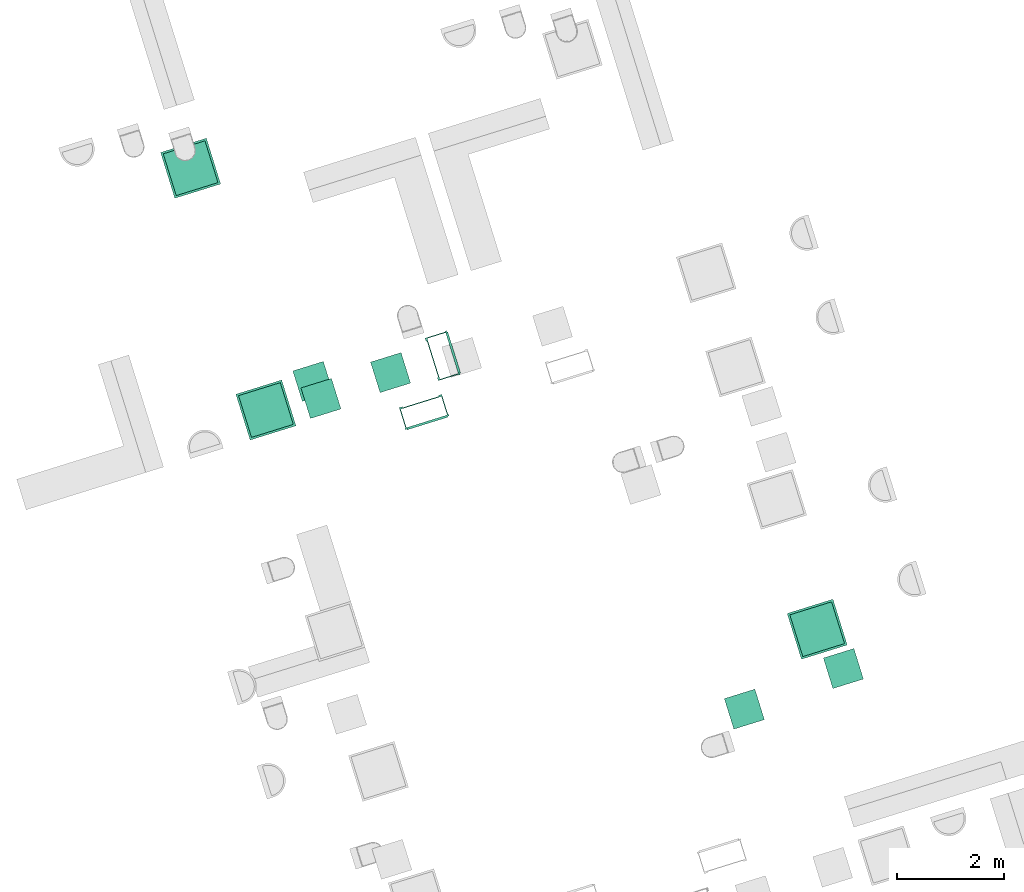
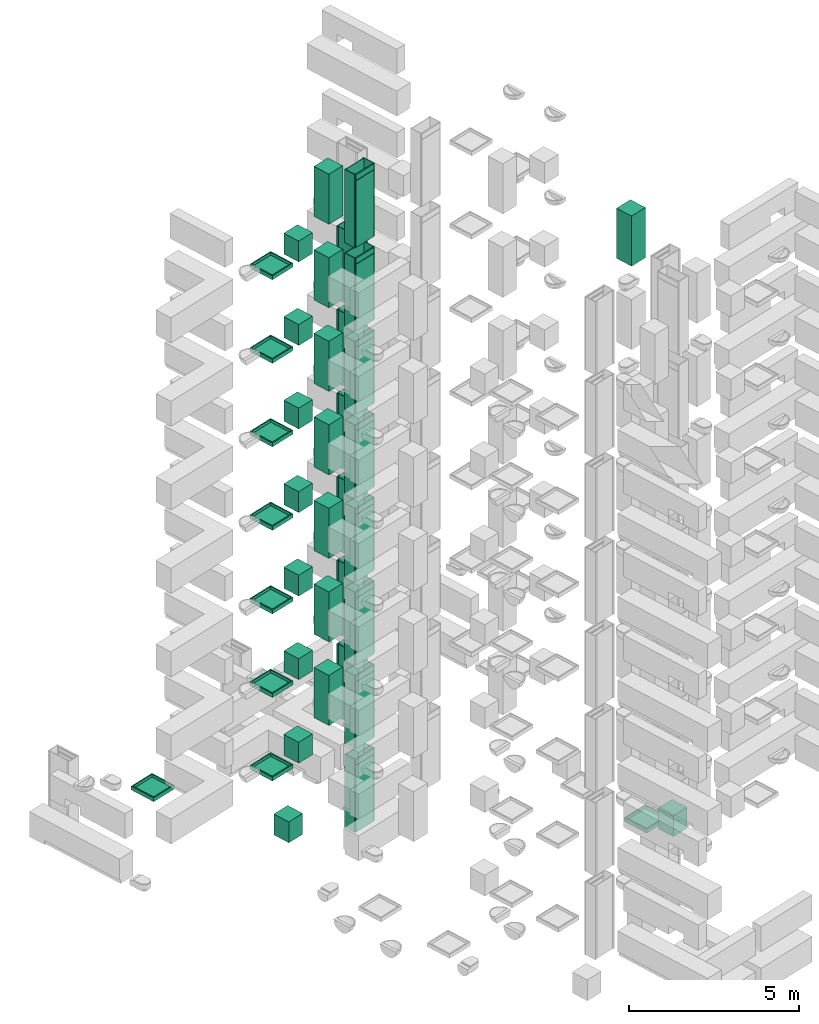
# Not in any storey, part 3 of 17: 14 distribution chamber elements, 9 electric appliances, 9 sanitary terminals, 8 boilers.
"""IFC4 model written with IfcOpenShell, lengths in metres."""

from ifc_helpers import new_model, entity, si_unit, converted_unit, direction, frame, origin, place, context, subcontext, project, indexed_curve, outline, extrude, polygons, source, transform, mapped, material, type_object, type_shapes, element, save


model = new_model("IFC4")

# Units and contexts
model_context = context("Model", 3, precision=1e-05, world=origin(), true_north=direction((6.12323399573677e-17, 1.0)))
body_context = subcontext(model_context, "Body", "Model", "MODEL_VIEW")
ifc_project = project(units=[si_unit("LENGTHUNIT", "METRE"), si_unit("AREAUNIT", "SQUARE_METRE"), converted_unit("PLANEANGLEUNIT", "DEGREE", entity("IfcPlaneAngleMeasure", 0.0174532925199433), si_unit("PLANEANGLEUNIT", "RADIAN"), dimensions=[0, 0, 0, 0, 0, 0, 0]), si_unit("VOLUMEUNIT", "CUBIC_METRE")], contexts=[model_context])

# Distribution chamber elements
ifc_material = material(Name="<Unnamed>")
distribution_chamber_element_type_1 = type_object("IfcDistributionChamberElementType", Name="NLRS_61_GM_UN_Jonka meterkast_gen:Jonka_kast", PredefinedType="METERCHAMBER", material=ifc_material)
shared_shape_1 = source(origin(), body_context, "Body", "SweptSolid", [
    extrude(outline(indexed_curve([(-0.0230000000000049, -0.00925000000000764), (-0.00900000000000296, -0.00925000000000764), (-0.00900000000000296, 0.000749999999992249), (0.00899999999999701, 0.000749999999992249), (0.00899999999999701, -0.00925000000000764), (0.023000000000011, -0.00925000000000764), (0.023000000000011, 0.0177500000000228), (-0.0230000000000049, 0.0177500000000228), (-0.0230000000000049, -0.00925000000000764)], self_intersect=False)), frame((-0.408999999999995, 0.409249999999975, 0.0)), (0.0, 0.0, 1.0), 2.63),
    extrude(outline(indexed_curve([(-0.0230000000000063, -0.00925000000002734), (-0.00900000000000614, -0.00925000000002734), (-0.00900000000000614, 0.00074999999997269), (0.00900000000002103, 0.00074999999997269), (0.00900000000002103, -0.00925000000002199), (0.0229999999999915, -0.00925000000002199), (0.0229999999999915, 0.0177500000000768), (-0.0230000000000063, 0.0177500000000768), (-0.0230000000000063, -0.00925000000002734)], self_intersect=False)), frame((0.409000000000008, 0.409249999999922, 0.0)), (0.0, 0.0, 1.0), 2.63),
    extrude(outline(indexed_curve([(-0.00899999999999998, -0.204999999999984), (0.00899999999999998, -0.204999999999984), (0.00899999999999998, 0.204999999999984), (-0.00899999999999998, 0.204999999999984), (-0.00899999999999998, -0.204999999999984)], self_intersect=False)), frame((-0.408999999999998, 0.204999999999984, 0.0)), (0.0, 0.0, 1.0), 2.63),
    extrude(outline(indexed_curve([(-0.00900000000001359, -0.204999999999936), (0.00900000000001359, -0.204999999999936), (0.00900000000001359, 0.204999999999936), (-0.00900000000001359, 0.204999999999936), (-0.00900000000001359, -0.204999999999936)], self_intersect=False)), frame((0.409000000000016, 0.204999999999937, 0.0)), (0.0, 0.0, 1.0), 2.63),
    extrude(outline(indexed_curve([(-0.00799999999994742, -0.399999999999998), (0.00799999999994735, -0.399999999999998), (0.00799999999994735, 0.399999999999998), (-0.00799999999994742, 0.399999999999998), (-0.00799999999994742, -0.399999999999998)], self_intersect=False)), frame((0.0, 0.434999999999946, 0.00999999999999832), z_axis=(0.0, 0.0, 1.0), x_axis=(0.0, 1.0, 0.0)), (0.0, 0.0, 1.0), 2.39),
    extrude(outline(indexed_curve([(-0.0090000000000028, -0.400000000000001), (0.00899999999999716, -0.400000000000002), (0.0090000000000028, 0.400000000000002), (-0.00899999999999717, 0.400000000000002), (-0.0090000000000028, -0.400000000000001)], self_intersect=False)), frame((0.0, 0.0280000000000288, 0.0), z_axis=(0.0, 0.0, 1.0), x_axis=(0.0, 1.0, 0.0)), (0.0, 0.0, 1.0), 2.63),
    extrude(outline(indexed_curve([(-0.0095, -0.023), (0.0095, -0.023), (0.0095, 0.023), (-0.0095, 0.023), (-0.0095, -0.023)], self_intersect=False)), frame((-0.376999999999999, 0.0095, 0.0), z_axis=(0.0, 0.0, 1.0), x_axis=(0.0, 1.0, 0.0)), (0.0, 0.0, 1.0), 2.63),
    extrude(outline(indexed_curve([(-0.0095, -0.022999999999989), (0.0095, -0.022999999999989), (0.0095, 0.022999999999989), (-0.0095, 0.022999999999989), (-0.0095, -0.022999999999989)], self_intersect=False)), frame((0.377000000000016, 0.00950000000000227, 0.0), z_axis=(0.0, 0.0, 1.0), x_axis=(0.0, 1.0, 0.0)), (0.0, 0.0, 1.0), 2.63),
    extrude(outline(indexed_curve([(-0.00799999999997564, -0.399999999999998), (0.00799999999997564, -0.399999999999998), (0.00799999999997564, 0.399999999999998), (-0.00799999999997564, 0.399999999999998), (-0.00799999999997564, -0.399999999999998)], self_intersect=False)), frame((0.0, 0.434999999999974, 2.41800000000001), z_axis=(0.0, 0.0, 1.0), x_axis=(0.0, 1.0, 0.0)), (0.0, 0.0, 1.0), 0.197000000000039),
    extrude(outline(indexed_curve([(-0.0177500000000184, -0.0230000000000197), (0.00925000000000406, -0.0230000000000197), (0.00925000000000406, -0.00899999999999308), (-0.00074999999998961, -0.00899999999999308), (-0.00074999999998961, 0.00900000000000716), (0.00925000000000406, 0.00900000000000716), (0.00925000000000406, 0.0230000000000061), (-0.0177500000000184, 0.0230000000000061), (-0.0177500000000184, -0.0230000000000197)], self_intersect=False)), frame((-0.386, 0.409249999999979, 2.59200000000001), z_axis=(1.0, 0.0, 0.0), x_axis=(0.0, -1.0, 0.0)), (0.0, 0.0, 1.0), 0.772),
    extrude(outline(indexed_curve([(-0.0177500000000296, -0.0229999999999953), (0.00925000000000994, -0.0229999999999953), (0.00925000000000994, -0.00899999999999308), (-0.000749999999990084, -0.00899999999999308), (-0.000749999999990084, 0.00900000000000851), (0.00925000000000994, 0.00900000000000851), (0.00925000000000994, 0.0229999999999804), (-0.0177500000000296, 0.0229999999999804), (-0.0177500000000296, -0.0229999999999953)], self_intersect=False)), frame((-0.386, 0.40924999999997, 2.40900000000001), z_axis=(1.0, 0.0, 0.0), x_axis=(0.0, -1.0, 0.0)), (0.0, 0.0, 1.0), 0.772),
    extrude(outline(indexed_curve([(-0.0177500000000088, -0.0230000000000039), (0.00925000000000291, -0.0230000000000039), (0.00925000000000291, -0.00899999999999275), (-0.000749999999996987, -0.00899999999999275), (-0.000749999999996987, 0.00899999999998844), (0.00925000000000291, 0.00899999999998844), (0.00925000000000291, 0.0230000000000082), (-0.0177500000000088, 0.0230000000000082), (-0.0177500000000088, -0.0230000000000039)], self_intersect=False)), frame((-0.386, 0.409249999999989, 0.0229999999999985), z_axis=(1.0, 0.0, 0.0), x_axis=(0.0, -1.0, 0.0)), (0.0, 0.0, 1.0), 0.772),
])
type_shapes(distribution_chamber_element_type_1, [shared_shape_1])
placement_1 = place(None, frame((13.1347999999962, 11.9886000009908, 0.0), z_axis=(0.0, 0.0, 1.0), x_axis=(0.954770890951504, 0.297342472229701, 0.0)))
placement_2 = place(placement_1, origin())
placement_3 = place(placement_2, frame((0.0, 0.0, 6.9)))
placement_4 = place(placement_3, origin())
distribution_chamber_element_1_placement = place(placement_4, frame((67.6749999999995, 22.757, 0.0), z_axis=(0.0, 0.0, 1.0), x_axis=(0.0, -1.0, 0.0)))
element("IfcDistributionChamberElement", 1, at=distribution_chamber_element_1_placement, type_object=distribution_chamber_element_type_1, material=ifc_material, Name="NLRS_61_GM_UN_Jonka meterkast_gen:Jonka_kast", ObjectType="NLRS_61_GM_UN_Jonka meterkast_gen:Jonka_kast", PredefinedType="METERCHAMBER", context=body_context, shape_type="MappedRepresentation", body=[
    mapped(shared_shape_1, transform((0.0, 0.0, 0.0), scale=1.0)),
])
placement_5 = place(placement_2, frame((0.0, 0.0, 9.9)))
placement_6 = place(placement_5, origin())
distribution_chamber_element_2_placement = place(placement_6, frame((67.6749999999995, 22.757, 0.0), z_axis=(0.0, 0.0, 1.0), x_axis=(0.0, -1.0, 0.0)))
element("IfcDistributionChamberElement", 2, at=distribution_chamber_element_2_placement, type_object=distribution_chamber_element_type_1, material=ifc_material, Name="NLRS_61_GM_UN_Jonka meterkast_gen:Jonka_kast", ObjectType="NLRS_61_GM_UN_Jonka meterkast_gen:Jonka_kast", PredefinedType="METERCHAMBER", context=body_context, shape_type="MappedRepresentation", body=[
    mapped(shared_shape_1, transform((0.0, 0.0, 0.0), scale=1.0)),
])
placement_7 = place(placement_2, frame((0.0, 0.0, 12.9)))
placement_8 = place(placement_7, origin())
distribution_chamber_element_3_placement = place(placement_8, frame((67.6749999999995, 22.757, 0.0), z_axis=(0.0, 0.0, 1.0), x_axis=(0.0, -1.0, 0.0)))
element("IfcDistributionChamberElement", 3, at=distribution_chamber_element_3_placement, type_object=distribution_chamber_element_type_1, material=ifc_material, Name="NLRS_61_GM_UN_Jonka meterkast_gen:Jonka_kast", ObjectType="NLRS_61_GM_UN_Jonka meterkast_gen:Jonka_kast", PredefinedType="METERCHAMBER", context=body_context, shape_type="MappedRepresentation", body=[
    mapped(shared_shape_1, transform((0.0, 0.0, 0.0), scale=1.0)),
])
placement_9 = place(placement_2, frame((0.0, 0.0, 15.9)))
placement_10 = place(placement_9, origin())
distribution_chamber_element_4_placement = place(placement_10, frame((67.6749999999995, 22.757, 0.0), z_axis=(0.0, 0.0, 1.0), x_axis=(0.0, -1.0, 0.0)))
element("IfcDistributionChamberElement", 4, at=distribution_chamber_element_4_placement, type_object=distribution_chamber_element_type_1, material=ifc_material, Name="NLRS_61_GM_UN_Jonka meterkast_gen:Jonka_kast", ObjectType="NLRS_61_GM_UN_Jonka meterkast_gen:Jonka_kast", PredefinedType="METERCHAMBER", context=body_context, shape_type="MappedRepresentation", body=[
    mapped(shared_shape_1, transform((0.0, 0.0, 0.0), scale=1.0)),
])
placement_11 = place(placement_2, frame((0.0, 0.0, 18.9)))
placement_12 = place(placement_11, origin())
distribution_chamber_element_5_placement = place(placement_12, frame((67.6749999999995, 22.757, 0.0), z_axis=(0.0, 0.0, 1.0), x_axis=(0.0, -1.0, 0.0)))
element("IfcDistributionChamberElement", 5, at=distribution_chamber_element_5_placement, type_object=distribution_chamber_element_type_1, material=ifc_material, Name="NLRS_61_GM_UN_Jonka meterkast_gen:Jonka_kast", ObjectType="NLRS_61_GM_UN_Jonka meterkast_gen:Jonka_kast", PredefinedType="METERCHAMBER", context=body_context, shape_type="MappedRepresentation", body=[
    mapped(shared_shape_1, transform((0.0, 0.0, 0.0), scale=1.0)),
])
placement_13 = place(placement_2, frame((0.0, 0.0, 21.9)))
placement_14 = place(placement_13, origin())
distribution_chamber_element_6_placement = place(placement_14, frame((67.6749999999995, 22.757, 0.0), z_axis=(0.0, 0.0, 1.0), x_axis=(0.0, -1.0, 0.0)))
element("IfcDistributionChamberElement", 6, at=distribution_chamber_element_6_placement, type_object=distribution_chamber_element_type_1, material=ifc_material, Name="NLRS_61_GM_UN_Jonka meterkast_gen:Jonka_kast", ObjectType="NLRS_61_GM_UN_Jonka meterkast_gen:Jonka_kast", PredefinedType="METERCHAMBER", context=body_context, shape_type="MappedRepresentation", body=[
    mapped(shared_shape_1, transform((0.0, 0.0, 0.0), scale=1.0)),
])

# Boilers
boiler_type = type_object("IfcBoilerType", Name="NLRS_51_ME_WB_warmtepomp_gen:generiek", PredefinedType="NOTDEFINED", material=ifc_material)
shared_shape_2 = source(origin(), body_context, "Body", "SweptSolid", [
    extrude(outline(indexed_curve([(-0.300000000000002, -0.299999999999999), (0.300000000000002, -0.299999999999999), (0.300000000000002, 0.299999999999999), (-0.300000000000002, 0.299999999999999), (-0.300000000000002, -0.299999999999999)], self_intersect=False)), frame((0.124999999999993, -0.350000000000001, 0.6), z_axis=(0.0, 0.0, 1.0), x_axis=(0.0, 1.0, 0.0)), (0.0, 0.0, 1.0), 1.8),
])
type_shapes(boiler_type, [shared_shape_2])
placement_15 = place(placement_3, origin())
boiler_1_placement = place(placement_15, frame((67.2159999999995, 22.8750000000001, 0.0), z_axis=(0.0, 0.0, 1.0), x_axis=(0.0, -1.0, 0.0)))
element("IfcBoiler", 7, at=boiler_1_placement, type_object=boiler_type, material=ifc_material, Name="NLRS_51_ME_WB_warmtepomp_gen:generiek", ObjectType="NLRS_51_ME_WB_warmtepomp_gen:generiek", PredefinedType="NOTDEFINED", context=body_context, shape_type="MappedRepresentation", body=[
    mapped(shared_shape_2, transform((0.0, 0.0, 0.0), scale=1.0)),
])
placement_16 = place(placement_5, origin())
boiler_2_placement = place(placement_16, frame((67.2159999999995, 22.8750000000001, 0.0), z_axis=(0.0, 0.0, 1.0), x_axis=(0.0, -1.0, 0.0)))
element("IfcBoiler", 8, at=boiler_2_placement, type_object=boiler_type, material=ifc_material, Name="NLRS_51_ME_WB_warmtepomp_gen:generiek", ObjectType="NLRS_51_ME_WB_warmtepomp_gen:generiek", PredefinedType="NOTDEFINED", context=body_context, shape_type="MappedRepresentation", body=[
    mapped(shared_shape_2, transform((0.0, 0.0, 0.0), scale=1.0)),
])
placement_17 = place(placement_7, origin())
boiler_3_placement = place(placement_17, frame((67.2159999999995, 22.8750000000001, 0.0), z_axis=(0.0, 0.0, 1.0), x_axis=(0.0, -1.0, 0.0)))
element("IfcBoiler", 9, at=boiler_3_placement, type_object=boiler_type, material=ifc_material, Name="NLRS_51_ME_WB_warmtepomp_gen:generiek", ObjectType="NLRS_51_ME_WB_warmtepomp_gen:generiek", PredefinedType="NOTDEFINED", context=body_context, shape_type="MappedRepresentation", body=[
    mapped(shared_shape_2, transform((0.0, 0.0, 0.0), scale=1.0)),
])
placement_18 = place(placement_9, origin())
boiler_4_placement = place(placement_18, frame((67.2159999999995, 22.8750000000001, 0.0), z_axis=(0.0, 0.0, 1.0), x_axis=(0.0, -1.0, 0.0)))
element("IfcBoiler", 10, at=boiler_4_placement, type_object=boiler_type, material=ifc_material, Name="NLRS_51_ME_WB_warmtepomp_gen:generiek", ObjectType="NLRS_51_ME_WB_warmtepomp_gen:generiek", PredefinedType="NOTDEFINED", context=body_context, shape_type="MappedRepresentation", body=[
    mapped(shared_shape_2, transform((0.0, 0.0, 0.0), scale=1.0)),
])
placement_19 = place(placement_11, origin())
boiler_5_placement = place(placement_19, frame((67.2159999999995, 22.8750000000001, 0.0), z_axis=(0.0, 0.0, 1.0), x_axis=(0.0, -1.0, 0.0)))
element("IfcBoiler", 11, at=boiler_5_placement, type_object=boiler_type, material=ifc_material, Name="NLRS_51_ME_WB_warmtepomp_gen:generiek", ObjectType="NLRS_51_ME_WB_warmtepomp_gen:generiek", PredefinedType="NOTDEFINED", context=body_context, shape_type="MappedRepresentation", body=[
    mapped(shared_shape_2, transform((0.0, 0.0, 0.0), scale=1.0)),
])
placement_20 = place(placement_13, origin())
boiler_6_placement = place(placement_20, frame((67.2159999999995, 22.8750000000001, 0.0), z_axis=(0.0, 0.0, 1.0), x_axis=(0.0, -1.0, 0.0)))
element("IfcBoiler", 12, at=boiler_6_placement, type_object=boiler_type, material=ifc_material, Name="NLRS_51_ME_WB_warmtepomp_gen:generiek", ObjectType="NLRS_51_ME_WB_warmtepomp_gen:generiek", PredefinedType="NOTDEFINED", context=body_context, shape_type="MappedRepresentation", body=[
    mapped(shared_shape_2, transform((0.0, 0.0, 0.0), scale=1.0)),
])
placement_21 = place(placement_2, frame((0.0, 0.0, 24.9)))
placement_22 = place(placement_21, origin())
boiler_7_placement = place(placement_22, frame((67.2159999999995, 22.8750000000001, 0.0), z_axis=(0.0, 0.0, 1.0), x_axis=(0.0, -1.0, 0.0)))
element("IfcBoiler", 13, at=boiler_7_placement, type_object=boiler_type, material=ifc_material, Name="NLRS_51_ME_WB_warmtepomp_gen:generiek", ObjectType="NLRS_51_ME_WB_warmtepomp_gen:generiek", PredefinedType="NOTDEFINED", context=body_context, shape_type="MappedRepresentation", body=[
    mapped(shared_shape_2, transform((0.0, 0.0, 0.0), scale=1.0)),
])
placement_23 = place(placement_21, origin())
boiler_8_placement = place(placement_23, frame((70.9749999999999, 14.6249999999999, 0.0), z_axis=(0.0, 0.0, 1.0), x_axis=(0.0, 1.0, 0.0)))
element("IfcBoiler", 14, at=boiler_8_placement, type_object=boiler_type, material=ifc_material, Name="NLRS_51_ME_WB_warmtepomp_gen:generiek", ObjectType="NLRS_51_ME_WB_warmtepomp_gen:generiek", PredefinedType="NOTDEFINED", context=body_context, shape_type="MappedRepresentation", body=[
    mapped(shared_shape_2, transform((0.0, 0.0, 0.0), scale=1.0)),
])

# Sanitary terminals
sanitary_terminal_type = type_object("IfcSanitaryTerminalType", Name="NLRS_74_PF_UN_douche_gen:douchebak 900x900mm", PredefinedType="NOTDEFINED", material=ifc_material)
shared_shape_3 = source(origin(), body_context, "Body", "Tessellation", [
    polygons([(1.65924045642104, -0.403499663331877, -6.76), (1.65924045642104, 0.496500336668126, -6.76), (0.759240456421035, 0.496500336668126, -6.76), (0.759240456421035, -0.403499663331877, -6.76), (0.799240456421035, -0.36349966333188, -6.76), (0.799240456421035, 0.456500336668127, -6.76), (1.61924045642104, 0.456500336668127, -6.76), (1.61924045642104, -0.36349966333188, -6.76), (1.65924045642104, -0.403499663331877, -6.9), (0.759240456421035, -0.403499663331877, -6.9), (0.759240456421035, 0.496500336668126, -6.9), (1.65924045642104, 0.496500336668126, -6.9), (1.61924045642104, -0.36349966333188, -6.86), (1.61924045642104, 0.456500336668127, -6.86), (0.799240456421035, 0.456500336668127, -6.86), (0.799240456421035, -0.36349966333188, -6.86)], [[[1, 2, 3, 4], [5, 6, 7, 8]], [[9, 10, 11, 12]], [[4, 10, 9, 1]], [[3, 11, 10, 4]], [[2, 12, 11, 3]], [[1, 9, 12, 2]], [[13, 14, 15, 16]], [[16, 5, 8, 13]], [[15, 6, 5, 16]], [[14, 7, 6, 15]], [[13, 8, 7, 14]]], closed=True),
])
type_shapes(sanitary_terminal_type, [shared_shape_3])
placement_24 = place(placement_2, frame((0.0, 0.0, 3.9)))
placement_25 = place(placement_24, origin())
sanitary_terminal_1_placement = place(placement_25, frame((64.4715003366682, 26.3157595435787, 6.9), z_axis=(0.0, 0.0, 1.0), x_axis=(0.0, 1.0, 0.0)))
element("IfcSanitaryTerminal", 15, at=sanitary_terminal_1_placement, type_object=sanitary_terminal_type, material=ifc_material, Name="NLRS_74_PF_UN_douche_gen:douchebak 900x900mm", ObjectType="NLRS_74_PF_UN_douche_gen:douchebak 900x900mm", PredefinedType="NOTDEFINED", context=body_context, shape_type="MappedRepresentation", body=[
    mapped(shared_shape_3, transform((0.0, 0.0, 0.0), scale=1.0)),
])
placement_26 = place(placement_3, origin())
sanitary_terminal_2_placement = place(placement_26, frame((64.3784996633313, 23.9842404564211, 6.9), z_axis=(0.0, 0.0, 1.0), x_axis=(0.0, -1.0, 0.0)))
element("IfcSanitaryTerminal", 16, at=sanitary_terminal_2_placement, type_object=sanitary_terminal_type, material=ifc_material, Name="NLRS_74_PF_UN_douche_gen:douchebak 900x900mm", ObjectType="NLRS_74_PF_UN_douche_gen:douchebak 900x900mm", PredefinedType="NOTDEFINED", context=body_context, shape_type="MappedRepresentation", body=[
    mapped(shared_shape_3, transform((0.0, 0.0, 0.0), scale=1.0)),
])
placement_27 = place(placement_5, origin())
sanitary_terminal_3_placement = place(placement_27, frame((64.3784996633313, 23.9842404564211, 6.9), z_axis=(0.0, 0.0, 1.0), x_axis=(0.0, -1.0, 0.0)))
element("IfcSanitaryTerminal", 17, at=sanitary_terminal_3_placement, type_object=sanitary_terminal_type, material=ifc_material, Name="NLRS_74_PF_UN_douche_gen:douchebak 900x900mm", ObjectType="NLRS_74_PF_UN_douche_gen:douchebak 900x900mm", PredefinedType="NOTDEFINED", context=body_context, shape_type="MappedRepresentation", body=[
    mapped(shared_shape_3, transform((0.0, 0.0, 0.0), scale=1.0)),
])
placement_28 = place(placement_7, origin())
sanitary_terminal_4_placement = place(placement_28, frame((64.3784996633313, 23.9842404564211, 6.9), z_axis=(0.0, 0.0, 1.0), x_axis=(0.0, -1.0, 0.0)))
element("IfcSanitaryTerminal", 18, at=sanitary_terminal_4_placement, type_object=sanitary_terminal_type, material=ifc_material, Name="NLRS_74_PF_UN_douche_gen:douchebak 900x900mm", ObjectType="NLRS_74_PF_UN_douche_gen:douchebak 900x900mm", PredefinedType="NOTDEFINED", context=body_context, shape_type="MappedRepresentation", body=[
    mapped(shared_shape_3, transform((0.0, 0.0, 0.0), scale=1.0)),
])
placement_29 = place(placement_9, origin())
sanitary_terminal_5_placement = place(placement_29, frame((64.3784996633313, 23.9842404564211, 6.9), z_axis=(0.0, 0.0, 1.0), x_axis=(0.0, -1.0, 0.0)))
element("IfcSanitaryTerminal", 19, at=sanitary_terminal_5_placement, type_object=sanitary_terminal_type, material=ifc_material, Name="NLRS_74_PF_UN_douche_gen:douchebak 900x900mm", ObjectType="NLRS_74_PF_UN_douche_gen:douchebak 900x900mm", PredefinedType="NOTDEFINED", context=body_context, shape_type="MappedRepresentation", body=[
    mapped(shared_shape_3, transform((0.0, 0.0, 0.0), scale=1.0)),
])
placement_30 = place(placement_11, origin())
sanitary_terminal_6_placement = place(placement_30, frame((64.3784996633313, 23.9842404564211, 6.9), z_axis=(0.0, 0.0, 1.0), x_axis=(0.0, -1.0, 0.0)))
element("IfcSanitaryTerminal", 20, at=sanitary_terminal_6_placement, type_object=sanitary_terminal_type, material=ifc_material, Name="NLRS_74_PF_UN_douche_gen:douchebak 900x900mm", ObjectType="NLRS_74_PF_UN_douche_gen:douchebak 900x900mm", PredefinedType="NOTDEFINED", context=body_context, shape_type="MappedRepresentation", body=[
    mapped(shared_shape_3, transform((0.0, 0.0, 0.0), scale=1.0)),
])
placement_31 = place(placement_13, origin())
sanitary_terminal_7_placement = place(placement_31, frame((64.3784996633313, 23.9842404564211, 6.9), z_axis=(0.0, 0.0, 1.0), x_axis=(0.0, -1.0, 0.0)))
element("IfcSanitaryTerminal", 21, at=sanitary_terminal_7_placement, type_object=sanitary_terminal_type, material=ifc_material, Name="NLRS_74_PF_UN_douche_gen:douchebak 900x900mm", ObjectType="NLRS_74_PF_UN_douche_gen:douchebak 900x900mm", PredefinedType="NOTDEFINED", context=body_context, shape_type="MappedRepresentation", body=[
    mapped(shared_shape_3, transform((0.0, 0.0, 0.0), scale=1.0)),
])
placement_32 = place(placement_21, origin())
sanitary_terminal_8_placement = place(placement_32, frame((64.3784996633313, 23.9842404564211, 6.9), z_axis=(0.0, 0.0, 1.0), x_axis=(0.0, -1.0, 0.0)))
element("IfcSanitaryTerminal", 22, at=sanitary_terminal_8_placement, type_object=sanitary_terminal_type, material=ifc_material, Name="NLRS_74_PF_UN_douche_gen:douchebak 900x900mm", ObjectType="NLRS_74_PF_UN_douche_gen:douchebak 900x900mm", PredefinedType="NOTDEFINED", context=body_context, shape_type="MappedRepresentation", body=[
    mapped(shared_shape_3, transform((0.0, 0.0, 0.0), scale=1.0)),
])
placement_33 = place(placement_24, origin())
sanitary_terminal_9_placement = place(placement_33, frame((74.2842404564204, 15.8215003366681, 6.9), z_axis=(0.0, 0.0, 1.0), x_axis=(-1.0, 0.0, 0.0)))
element("IfcSanitaryTerminal", 23, at=sanitary_terminal_9_placement, type_object=sanitary_terminal_type, material=ifc_material, Name="NLRS_74_PF_UN_douche_gen:douchebak 900x900mm", ObjectType="NLRS_74_PF_UN_douche_gen:douchebak 900x900mm", PredefinedType="NOTDEFINED", context=body_context, shape_type="MappedRepresentation", body=[
    mapped(shared_shape_3, transform((0.0, 0.0, 0.0), scale=1.0)),
])

# Electric appliances
electric_appliance_type_1 = type_object("IfcElectricApplianceType", Name="NLRS_85_SE_UN_opstelplaats wasmachine_gen:wasdroger", PredefinedType="TUMBLEDRYER", material=ifc_material)
shared_shape_4 = source(origin(), body_context, "Body", "SweptSolid", [
    extrude(outline(indexed_curve([(-0.3, -0.299999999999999), (0.3, -0.299999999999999), (0.3, 0.299999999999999), (-0.3, 0.299999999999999), (-0.3, -0.299999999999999)], self_intersect=False)), frame((0.0, -0.349999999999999, 0.0), z_axis=(0.0, 0.0, 1.0), x_axis=(-1.0, 0.0, 0.0)), (0.0, 0.0, 1.0), 0.75026866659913),
])
type_shapes(electric_appliance_type_1, [shared_shape_4])
electric_appliance_1_placement = place(placement_15, frame((65.4749999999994, 22.325, 0.0), z_axis=(0.0, 0.0, 1.0), x_axis=(-1.0, 0.0, 0.0)))
element("IfcElectricAppliance", 24, at=electric_appliance_1_placement, type_object=electric_appliance_type_1, material=ifc_material, Name="NLRS_85_SE_UN_opstelplaats wasmachine_gen:wasdroger", ObjectType="NLRS_85_SE_UN_opstelplaats wasmachine_gen:wasdroger", PredefinedType="TUMBLEDRYER", context=body_context, shape_type="MappedRepresentation", body=[
    mapped(shared_shape_4, transform((0.0, 0.0, 0.0), scale=1.0)),
])
electric_appliance_2_placement = place(placement_16, frame((65.4749999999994, 22.325, 0.0), z_axis=(0.0, 0.0, 1.0), x_axis=(-1.0, 0.0, 0.0)))
element("IfcElectricAppliance", 25, at=electric_appliance_2_placement, type_object=electric_appliance_type_1, material=ifc_material, Name="NLRS_85_SE_UN_opstelplaats wasmachine_gen:wasdroger", ObjectType="NLRS_85_SE_UN_opstelplaats wasmachine_gen:wasdroger", PredefinedType="TUMBLEDRYER", context=body_context, shape_type="MappedRepresentation", body=[
    mapped(shared_shape_4, transform((0.0, 0.0, 0.0), scale=1.0)),
])
electric_appliance_3_placement = place(placement_17, frame((65.4749999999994, 22.325, 0.0), z_axis=(0.0, 0.0, 1.0), x_axis=(-1.0, 0.0, 0.0)))
element("IfcElectricAppliance", 26, at=electric_appliance_3_placement, type_object=electric_appliance_type_1, material=ifc_material, Name="NLRS_85_SE_UN_opstelplaats wasmachine_gen:wasdroger", ObjectType="NLRS_85_SE_UN_opstelplaats wasmachine_gen:wasdroger", PredefinedType="TUMBLEDRYER", context=body_context, shape_type="MappedRepresentation", body=[
    mapped(shared_shape_4, transform((0.0, 0.0, 0.0), scale=1.0)),
])
electric_appliance_4_placement = place(placement_18, frame((65.4749999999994, 22.325, 0.0), z_axis=(0.0, 0.0, 1.0), x_axis=(-1.0, 0.0, 0.0)))
element("IfcElectricAppliance", 27, at=electric_appliance_4_placement, type_object=electric_appliance_type_1, material=ifc_material, Name="NLRS_85_SE_UN_opstelplaats wasmachine_gen:wasdroger", ObjectType="NLRS_85_SE_UN_opstelplaats wasmachine_gen:wasdroger", PredefinedType="TUMBLEDRYER", context=body_context, shape_type="MappedRepresentation", body=[
    mapped(shared_shape_4, transform((0.0, 0.0, 0.0), scale=1.0)),
])
electric_appliance_5_placement = place(placement_19, frame((65.4749999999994, 22.325, 0.0), z_axis=(0.0, 0.0, 1.0), x_axis=(-1.0, 0.0, 0.0)))
element("IfcElectricAppliance", 28, at=electric_appliance_5_placement, type_object=electric_appliance_type_1, material=ifc_material, Name="NLRS_85_SE_UN_opstelplaats wasmachine_gen:wasdroger", ObjectType="NLRS_85_SE_UN_opstelplaats wasmachine_gen:wasdroger", PredefinedType="TUMBLEDRYER", context=body_context, shape_type="MappedRepresentation", body=[
    mapped(shared_shape_4, transform((0.0, 0.0, 0.0), scale=1.0)),
])
electric_appliance_6_placement = place(placement_20, frame((65.4749999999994, 22.325, 0.0), z_axis=(0.0, 0.0, 1.0), x_axis=(-1.0, 0.0, 0.0)))
element("IfcElectricAppliance", 29, at=electric_appliance_6_placement, type_object=electric_appliance_type_1, material=ifc_material, Name="NLRS_85_SE_UN_opstelplaats wasmachine_gen:wasdroger", ObjectType="NLRS_85_SE_UN_opstelplaats wasmachine_gen:wasdroger", PredefinedType="TUMBLEDRYER", context=body_context, shape_type="MappedRepresentation", body=[
    mapped(shared_shape_4, transform((0.0, 0.0, 0.0), scale=1.0)),
])
electric_appliance_7_placement = place(placement_22, frame((65.4749999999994, 22.325, 0.0), z_axis=(0.0, 0.0, 1.0), x_axis=(-1.0, 0.0, 0.0)))
element("IfcElectricAppliance", 30, at=electric_appliance_7_placement, type_object=electric_appliance_type_1, material=ifc_material, Name="NLRS_85_SE_UN_opstelplaats wasmachine_gen:wasdroger", ObjectType="NLRS_85_SE_UN_opstelplaats wasmachine_gen:wasdroger", PredefinedType="TUMBLEDRYER", context=body_context, shape_type="MappedRepresentation", body=[
    mapped(shared_shape_4, transform((0.0, 0.0, 0.0), scale=1.0)),
])
electric_appliance_type_2 = type_object("IfcElectricApplianceType", Name="NLRS_85_SE_UN_opstelplaats wasmachine_gen:wasdroger", PredefinedType="TUMBLEDRYER", material=ifc_material)
shared_shape_5 = source(origin(), body_context, "Body", "SweptSolid", [
    extrude(outline(indexed_curve([(-0.299999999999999, -0.3), (0.299999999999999, -0.3), (0.299999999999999, 0.3), (-0.299999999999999, 0.3), (-0.299999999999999, -0.3)], self_intersect=False)), frame((0.0, 0.349999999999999, 0.0), z_axis=(0.0, 0.0, 1.0), x_axis=(0.0, 1.0, 0.0)), (0.0, 0.0, 1.0), 0.75026866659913),
])
type_shapes(electric_appliance_type_2, [shared_shape_5])
placement_34 = place(placement_24, origin())
electric_appliance_8_placement = place(placement_34, frame((73.3249999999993, 14.575, 0.0)))
element("IfcElectricAppliance", 31, at=electric_appliance_8_placement, type_object=electric_appliance_type_2, material=ifc_material, Name="NLRS_85_SE_UN_opstelplaats wasmachine_gen:wasdroger", ObjectType="NLRS_85_SE_UN_opstelplaats wasmachine_gen:wasdroger", PredefinedType="TUMBLEDRYER", context=body_context, shape_type="MappedRepresentation", body=[
    mapped(shared_shape_5, transform((0.0, 0.0, 0.0), scale=1.0)),
])
placement_35 = place(placement_24, origin())
electric_appliance_9_placement = place(placement_35, frame((65.4249999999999, 23.3749999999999, 0.0), z_axis=(0.0, 0.0, 1.0), x_axis=(-1.0, 0.0, 0.0)))
element("IfcElectricAppliance", 32, at=electric_appliance_9_placement, type_object=electric_appliance_type_2, material=ifc_material, Name="NLRS_85_SE_UN_opstelplaats wasmachine_gen:wasdroger", ObjectType="NLRS_85_SE_UN_opstelplaats wasmachine_gen:wasdroger", PredefinedType="TUMBLEDRYER", context=body_context, shape_type="MappedRepresentation", body=[
    mapped(shared_shape_5, transform((0.0, 0.0, 0.0), scale=1.0)),
])

# Distribution chamber elements
distribution_chamber_element_type_2 = type_object("IfcDistributionChamberElementType", Name="NLRS_61_GM_UN_Jonka meterkast_gen:Jonka_kast", PredefinedType="METERCHAMBER", material=ifc_material)
shared_shape_6 = source(origin(), body_context, "Body", "SweptSolid", [
    extrude(outline(indexed_curve([(-0.00925000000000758, -0.0230000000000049), (0.0177500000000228, -0.0230000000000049), (0.0177500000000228, 0.0230000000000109), (-0.00925000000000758, 0.0230000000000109), (-0.00925000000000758, 0.00899999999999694), (0.000749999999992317, 0.00899999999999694), (0.000749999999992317, -0.00900000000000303), (-0.00925000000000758, -0.00900000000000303), (-0.00925000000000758, -0.0230000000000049)], self_intersect=False)), frame((-0.408999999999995, -0.409249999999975, 0.0), z_axis=(0.0, 0.0, 1.0), x_axis=(0.0, -1.0, 0.0)), (0.0, 0.0, 1.0), 2.63),
    extrude(outline(indexed_curve([(-0.0092500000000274, -0.0230000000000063), (0.0177500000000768, -0.0230000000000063), (0.0177500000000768, 0.0229999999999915), (-0.00925000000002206, 0.0229999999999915), (-0.00925000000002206, 0.00900000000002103), (0.000749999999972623, 0.00900000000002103), (0.000749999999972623, -0.00900000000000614), (-0.0092500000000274, -0.00900000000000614), (-0.0092500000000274, -0.0230000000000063)], self_intersect=False)), frame((0.409000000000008, -0.409249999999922, 0.0), z_axis=(0.0, 0.0, 1.0), x_axis=(0.0, -1.0, 0.0)), (0.0, 0.0, 1.0), 2.63),
    extrude(outline(indexed_curve([(-0.204999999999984, -0.00899999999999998), (0.204999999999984, -0.00899999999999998), (0.204999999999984, 0.00899999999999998), (-0.204999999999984, 0.00899999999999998), (-0.204999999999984, -0.00899999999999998)], self_intersect=False)), frame((-0.408999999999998, -0.204999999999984, 0.0), z_axis=(0.0, 0.0, 1.0), x_axis=(0.0, -1.0, 0.0)), (0.0, 0.0, 1.0), 2.63),
    extrude(outline(indexed_curve([(-0.204999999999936, -0.00900000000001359), (0.204999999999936, -0.00900000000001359), (0.204999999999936, 0.00900000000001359), (-0.204999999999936, 0.00900000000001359), (-0.204999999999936, -0.00900000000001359)], self_intersect=False)), frame((0.409000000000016, -0.204999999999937, 0.0), z_axis=(0.0, 0.0, 1.0), x_axis=(0.0, -1.0, 0.0)), (0.0, 0.0, 1.0), 2.63),
    extrude(outline(indexed_curve([(-0.399999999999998, -0.00799999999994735), (0.399999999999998, -0.00799999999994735), (0.399999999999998, 0.00799999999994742), (-0.399999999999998, 0.00799999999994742), (-0.399999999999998, -0.00799999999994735)], self_intersect=False)), frame((0.0, -0.434999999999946, 0.00999999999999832), z_axis=(0.0, 0.0, 1.0), x_axis=(-1.0, 0.0, 0.0)), (0.0, 0.0, 1.0), 2.39),
    extrude(outline(indexed_curve([(-0.400000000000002, -0.00899999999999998), (0.400000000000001, -0.00899999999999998), (0.400000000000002, 0.00899999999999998), (-0.400000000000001, 0.00899999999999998), (-0.400000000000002, -0.00899999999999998)], self_intersect=False)), frame((0.0, -0.0280000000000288, 0.0), z_axis=(0.0, 0.0, 1.0), x_axis=(-1.0, 0.0, 0.0)), (0.0, 0.0, 1.0), 2.63),
    extrude(outline(indexed_curve([(-0.023, -0.0095), (0.023, -0.0095), (0.023, 0.0095), (-0.023, 0.0095), (-0.023, -0.0095)], self_intersect=False)), frame((-0.376999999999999, -0.0095, 0.0), z_axis=(0.0, 0.0, 1.0), x_axis=(-1.0, 0.0, 0.0)), (0.0, 0.0, 1.0), 2.63),
    extrude(outline(indexed_curve([(-0.022999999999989, -0.0095), (0.022999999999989, -0.0095), (0.022999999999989, 0.0095), (-0.022999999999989, 0.0095), (-0.022999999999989, -0.0095)], self_intersect=False)), frame((0.377000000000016, -0.00950000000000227, 0.0), z_axis=(0.0, 0.0, 1.0), x_axis=(-1.0, 0.0, 0.0)), (0.0, 0.0, 1.0), 2.63),
    extrude(outline(indexed_curve([(-0.399999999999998, -0.00799999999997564), (0.399999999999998, -0.00799999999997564), (0.399999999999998, 0.00799999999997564), (-0.399999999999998, 0.00799999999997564), (-0.399999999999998, -0.00799999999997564)], self_intersect=False)), frame((0.0, -0.434999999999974, 2.41800000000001), z_axis=(0.0, 0.0, 1.0), x_axis=(-1.0, 0.0, 0.0)), (0.0, 0.0, 1.0), 0.197000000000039),
    extrude(outline(indexed_curve([(-0.0230000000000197, -0.0177500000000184), (0.0230000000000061, -0.0177500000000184), (0.0230000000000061, 0.00925000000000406), (0.00900000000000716, 0.00925000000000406), (0.00900000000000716, -0.00074999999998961), (-0.00899999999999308, -0.00074999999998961), (-0.00899999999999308, 0.00925000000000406), (-0.0230000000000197, 0.00925000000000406), (-0.0230000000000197, -0.0177500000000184)], self_intersect=False)), frame((-0.386, -0.409249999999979, 2.59200000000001), z_axis=(1.0, 0.0, 0.0), x_axis=(0.0, 0.0, -1.0)), (0.0, 0.0, 1.0), 0.772),
    extrude(outline(indexed_curve([(-0.0229999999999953, -0.0177500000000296), (0.0229999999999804, -0.0177500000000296), (0.0229999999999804, 0.00925000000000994), (0.00900000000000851, 0.00925000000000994), (0.00900000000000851, -0.000749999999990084), (-0.00899999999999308, -0.000749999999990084), (-0.00899999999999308, 0.00925000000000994), (-0.0229999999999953, 0.00925000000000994), (-0.0229999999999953, -0.0177500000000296)], self_intersect=False)), frame((-0.386, -0.40924999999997, 2.40900000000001), z_axis=(1.0, 0.0, 0.0), x_axis=(0.0, 0.0, -1.0)), (0.0, 0.0, 1.0), 0.772),
    extrude(outline(indexed_curve([(-0.0230000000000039, -0.0177500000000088), (0.0230000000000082, -0.0177500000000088), (0.0230000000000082, 0.00925000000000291), (0.00899999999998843, 0.00925000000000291), (0.00899999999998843, -0.000749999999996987), (-0.00899999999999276, -0.000749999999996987), (-0.00899999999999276, 0.00925000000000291), (-0.0230000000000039, 0.00925000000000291), (-0.0230000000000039, -0.0177500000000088)], self_intersect=False)), frame((-0.386, -0.409249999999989, 0.0229999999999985), z_axis=(1.0, 0.0, 0.0), x_axis=(0.0, 0.0, -1.0)), (0.0, 0.0, 1.0), 0.772),
])
type_shapes(distribution_chamber_element_type_2, [shared_shape_6])
placement_36 = place(placement_3, origin())
distribution_chamber_element_7_placement = place(placement_36, frame((67.2429999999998, 22.0749999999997, 0.0)))
element("IfcDistributionChamberElement", 33, at=distribution_chamber_element_7_placement, type_object=distribution_chamber_element_type_2, material=ifc_material, Name="NLRS_61_GM_UN_Jonka meterkast_gen:Jonka_kast", ObjectType="NLRS_61_GM_UN_Jonka meterkast_gen:Jonka_kast", PredefinedType="METERCHAMBER", context=body_context, shape_type="MappedRepresentation", body=[
    mapped(shared_shape_6, transform((0.0, 0.0, 0.0), scale=1.0)),
])
placement_37 = place(placement_5, origin())
distribution_chamber_element_8_placement = place(placement_37, frame((67.2429999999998, 22.0749999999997, 0.0)))
element("IfcDistributionChamberElement", 34, at=distribution_chamber_element_8_placement, type_object=distribution_chamber_element_type_2, material=ifc_material, Name="NLRS_61_GM_UN_Jonka meterkast_gen:Jonka_kast", ObjectType="NLRS_61_GM_UN_Jonka meterkast_gen:Jonka_kast", PredefinedType="METERCHAMBER", context=body_context, shape_type="MappedRepresentation", body=[
    mapped(shared_shape_6, transform((0.0, 0.0, 0.0), scale=1.0)),
])
placement_38 = place(placement_7, origin())
distribution_chamber_element_9_placement = place(placement_38, frame((67.2429999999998, 22.0749999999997, 0.0)))
element("IfcDistributionChamberElement", 35, at=distribution_chamber_element_9_placement, type_object=distribution_chamber_element_type_2, material=ifc_material, Name="NLRS_61_GM_UN_Jonka meterkast_gen:Jonka_kast", ObjectType="NLRS_61_GM_UN_Jonka meterkast_gen:Jonka_kast", PredefinedType="METERCHAMBER", context=body_context, shape_type="MappedRepresentation", body=[
    mapped(shared_shape_6, transform((0.0, 0.0, 0.0), scale=1.0)),
])
placement_39 = place(placement_9, origin())
distribution_chamber_element_10_placement = place(placement_39, frame((67.2429999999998, 22.0749999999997, 0.0)))
element("IfcDistributionChamberElement", 36, at=distribution_chamber_element_10_placement, type_object=distribution_chamber_element_type_2, material=ifc_material, Name="NLRS_61_GM_UN_Jonka meterkast_gen:Jonka_kast", ObjectType="NLRS_61_GM_UN_Jonka meterkast_gen:Jonka_kast", PredefinedType="METERCHAMBER", context=body_context, shape_type="MappedRepresentation", body=[
    mapped(shared_shape_6, transform((0.0, 0.0, 0.0), scale=1.0)),
])
placement_40 = place(placement_11, origin())
distribution_chamber_element_11_placement = place(placement_40, frame((67.2429999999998, 22.0749999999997, 0.0)))
element("IfcDistributionChamberElement", 37, at=distribution_chamber_element_11_placement, type_object=distribution_chamber_element_type_2, material=ifc_material, Name="NLRS_61_GM_UN_Jonka meterkast_gen:Jonka_kast", ObjectType="NLRS_61_GM_UN_Jonka meterkast_gen:Jonka_kast", PredefinedType="METERCHAMBER", context=body_context, shape_type="MappedRepresentation", body=[
    mapped(shared_shape_6, transform((0.0, 0.0, 0.0), scale=1.0)),
])
placement_41 = place(placement_13, origin())
distribution_chamber_element_12_placement = place(placement_41, frame((67.2429999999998, 22.0749999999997, 0.0)))
element("IfcDistributionChamberElement", 38, at=distribution_chamber_element_12_placement, type_object=distribution_chamber_element_type_2, material=ifc_material, Name="NLRS_61_GM_UN_Jonka meterkast_gen:Jonka_kast", ObjectType="NLRS_61_GM_UN_Jonka meterkast_gen:Jonka_kast", PredefinedType="METERCHAMBER", context=body_context, shape_type="MappedRepresentation", body=[
    mapped(shared_shape_6, transform((0.0, 0.0, 0.0), scale=1.0)),
])
placement_42 = place(placement_21, origin())
distribution_chamber_element_13_placement = place(placement_42, frame((67.2429999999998, 22.0749999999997, 0.0)))
element("IfcDistributionChamberElement", 39, at=distribution_chamber_element_13_placement, type_object=distribution_chamber_element_type_2, material=ifc_material, Name="NLRS_61_GM_UN_Jonka meterkast_gen:Jonka_kast", ObjectType="NLRS_61_GM_UN_Jonka meterkast_gen:Jonka_kast", PredefinedType="METERCHAMBER", context=body_context, shape_type="MappedRepresentation", body=[
    mapped(shared_shape_6, transform((0.0, 0.0, 0.0), scale=1.0)),
])
placement_43 = place(placement_24, origin())
distribution_chamber_element_14_placement = place(placement_43, frame((67.2430000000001, 22.0749999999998, 0.0)))
element("IfcDistributionChamberElement", 40, at=distribution_chamber_element_14_placement, type_object=distribution_chamber_element_type_2, material=ifc_material, Name="NLRS_61_GM_UN_Jonka meterkast_gen:Jonka_kast", ObjectType="NLRS_61_GM_UN_Jonka meterkast_gen:Jonka_kast", PredefinedType="METERCHAMBER", context=body_context, shape_type="MappedRepresentation", body=[
    mapped(shared_shape_6, transform((0.0, 0.0, 0.0), scale=1.0)),
])

save(model, "model.ifc")
